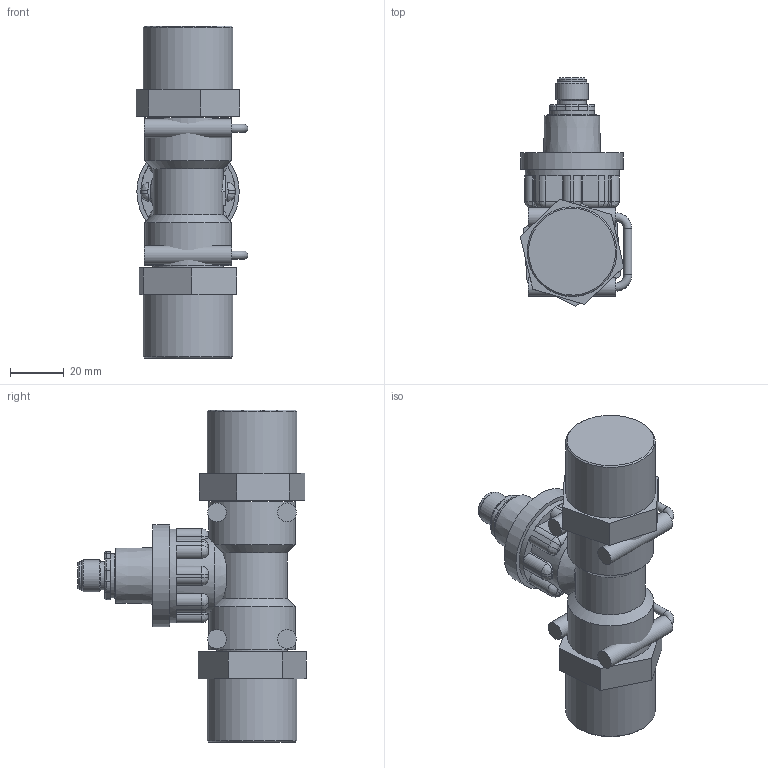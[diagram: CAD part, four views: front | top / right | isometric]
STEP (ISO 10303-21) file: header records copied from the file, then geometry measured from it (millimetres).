
FILE_DESCRIPTION(/* description */ (''),/* implementation_level */ '2;1');
FILE_NAME(/* name */ 'T:\Drawings\Customer Data\3D Customer Models\FT2_1_Fittings_Shrinkwrap.stp',/* time_stamp */ '2016-10-12T14:05:36+01:00',/* author */ ('Stevem'),/* organization */ (''),/* preprocessor_version */ 'ST-DEVELOPER v15.2',/* originating_system */ 'Autodesk Inventor 2014',/* authorisation */ '');
FILE_SCHEMA (('AUTOMOTIVE_DESIGN { 1 0 10303 214 3 1 1 }'));
Length unit declared in the file: inch
Products named in the file (1): FT2_1_Fittings_Shrinkwrap
Bounding box: 41.46 x 84.64 x 123.17 mm (x, y, z)
Surface area: 31881.8 mm2 (no closed solid volume)
Topology: 0 solids, 21 shells, 189 faces, 460 edges, 292 vertices
Faces by surface type: plane 81, cylinder 65, torus 17, bspline 16, cone 10
Full cylindrical faces by diameter (mm): 3 x2, 7 x4, 10.5 x2, 12 x1, 16.45 x1, 26.15 x1, 28 x1, 32 x2, 33.25 x2, 35 x1, 38 x1
Entity records: 5876 total; most frequent: CARTESIAN_POINT 1318, DIRECTION 958, ORIENTED_EDGE 802, EDGE_CURVE 428, AXIS2_PLACEMENT_3D 386, VERTEX_POINT 288, EDGE_LOOP 217, CIRCLE 210
